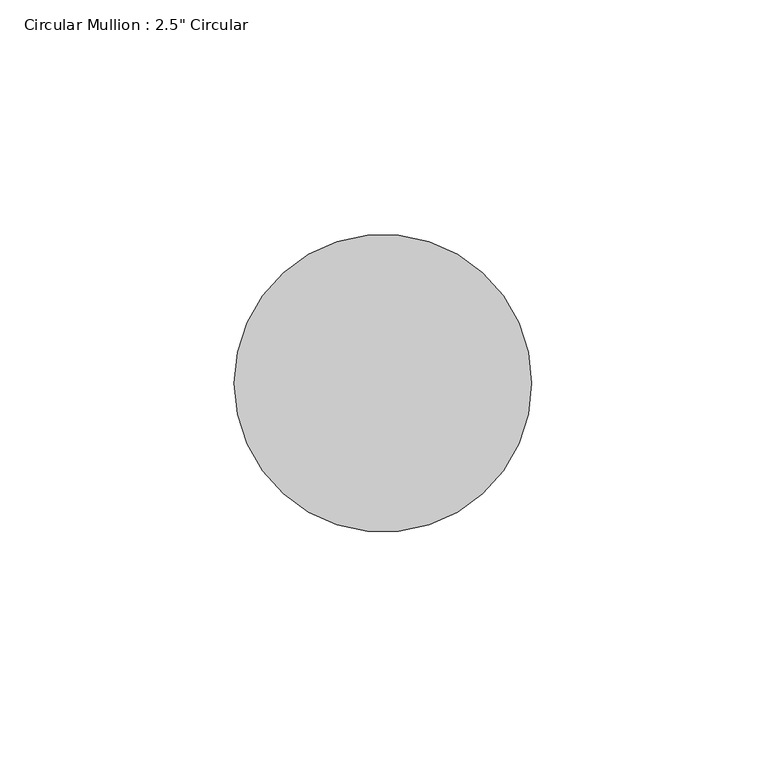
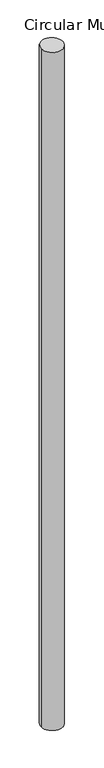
"""IFC4 building model written with IfcOpenShell, lengths in millimetres: member geometry."""

from ifc_helpers import new_model, si_unit, frame, origin, origin_with_axes, place, context, project, spatial, circle_curve, ellipse_curve, source, transform, mapped, element, save
from ifc_brep_helpers import plane_surface, cylinder_surface, advanced_brep


def member_19d437ef(model_context):
    return source(origin(), model_context, "Body", "AdvancedBrep", [
        advanced_brep(
        [(31.75, 0.0, -2115.1439731), (-31.75, 0.0, -2115.1439731), (-31.75, 0.0, -0.2182881), (31.75, 0.0, 0.2182881)],
        [
            (0, 1, circle_curve(frame((0.0, 0.0, -2115.1439731), z_axis=(0.0, 0.0, -1.0), x_axis=(1.0, 0.0, 0.0)), 31.75)),
            (1, 0, circle_curve(frame((0.0, 0.0, -2115.1439731), z_axis=(0.0, 0.0, -1.0), x_axis=(1.0, 0.0, 0.0)), 31.75)),
            (2, 3, ellipse_curve(frame((0.0, 0.0, 0.0), z_axis=(0.006867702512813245, 0.04622924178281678, -0.9989072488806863), x_axis=(0.14678432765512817, 0.9880637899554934, 0.046736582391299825)), 31.7847328, 31.75)),
            (3, 0),
            (1, 2),
            (3, 2, ellipse_curve(frame((0.0, 0.0, 0.0), z_axis=(0.006867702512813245, 0.04622924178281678, -0.9989072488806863), x_axis=(0.14678432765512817, 0.9880637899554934, 0.046736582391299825)), 31.7847328, 31.75)),
        ],
        [
            plane_surface(frame((0.0, -31.75, -2115.1439731), z_axis=(0.0, 0.0, -1.0), x_axis=(-1.0, 0.0, 0.0))),
            cylinder_surface(origin_with_axes(), 31.75),
            plane_surface(frame((301.4912981, -44.7888061, 0.0), z_axis=(-0.0068677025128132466, -0.04622924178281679, 0.9989072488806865), x_axis=(-0.14678432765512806, -0.9880637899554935, -0.04673658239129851))),
        ],
        [
            (0, [[1, 2]]),
            (1, [[3, 4, -2, 5]]),
            (1, [[6, -5, -1, -4]]),
            (2, [[-3, -6]]),
        ],
    ),
    ])


if __name__ == "__main__":
    model = new_model("IFC4")
    model_context = context("Model", 3, world=origin())
    ifc_project = project(units=[si_unit("LENGTHUNIT", "METRE", prefix="MILLI")], contexts=[model_context])
    site = spatial("IfcSite", under=ifc_project)
    building = spatial("IfcBuilding", under=site)
    placement = place(None, origin())
    member_shape = member_19d437ef(model_context)
    element("IfcMember", 1, ObjectType="Circular Mullion : 2.5\" Circular", at=placement, inside=building, context=model_context, shape_type="MappedRepresentation", body=[
        mapped(member_shape, transform((0.0, 0.0, 0.0), x_axis=(1.0, 0.0, 0.0), y_axis=(0.0, 1.0, 0.0), z_axis=(0.0, 0.0, 1.0))),
    ])
    save(model, "model.ifc")
